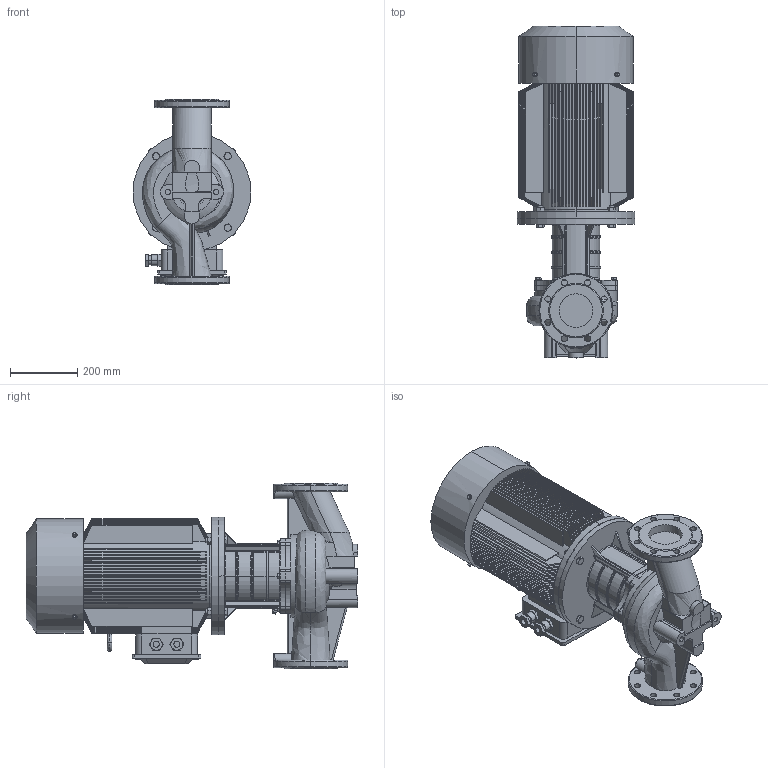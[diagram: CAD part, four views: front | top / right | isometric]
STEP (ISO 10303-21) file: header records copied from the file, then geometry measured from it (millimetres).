
FILE_DESCRIPTION (( 'STEP AP203' ), '1' );
FILE_NAME ('TD100-27 33G／2.STEP', '2026-09-07T02:43:06', ( '' ), ( '' ), 'SwSTEP 2.0', 'SolidWorks 2020', '' );
FILE_SCHEMA (( 'CONFIG_CONTROL_DESIGN' ));
Products named in the file (1): TD100-27 33G／2
Bounding box: 350 x 985 x 550 mm (x, y, z)
Volume: 61373730.8 mm3; surface area: 3931081.8 mm2
Topology: 1 solids, 9 shells, 1793 faces, 4539 edges, 2771 vertices
Faces by surface type: plane 728, cylinder 487, cone 379, torus 114, sphere 46, bspline 39
Entity records: 74206 total; most frequent: CARTESIAN_POINT 32019, ORIENTED_EDGE 8994, DIRECTION 8760, EDGE_CURVE 4497, AXIS2_PLACEMENT_3D 3474, VERTEX_POINT 2763, EDGE_LOOP 1878, VECTOR 1812
